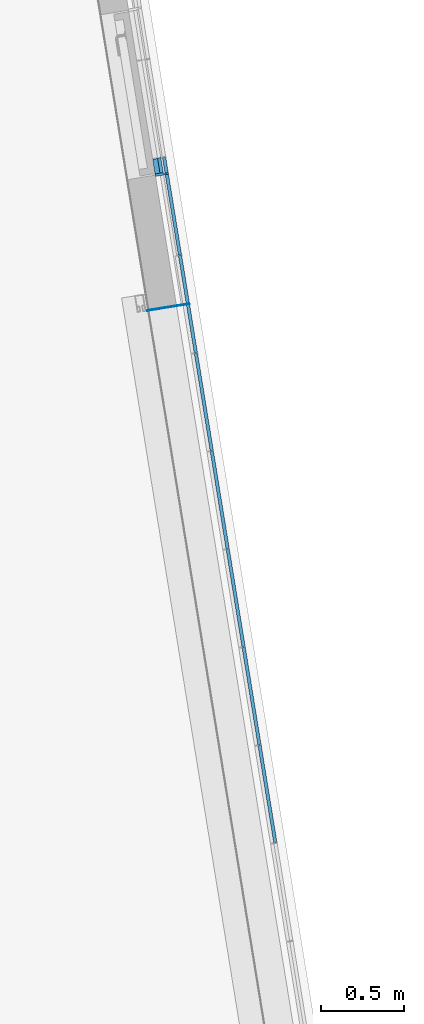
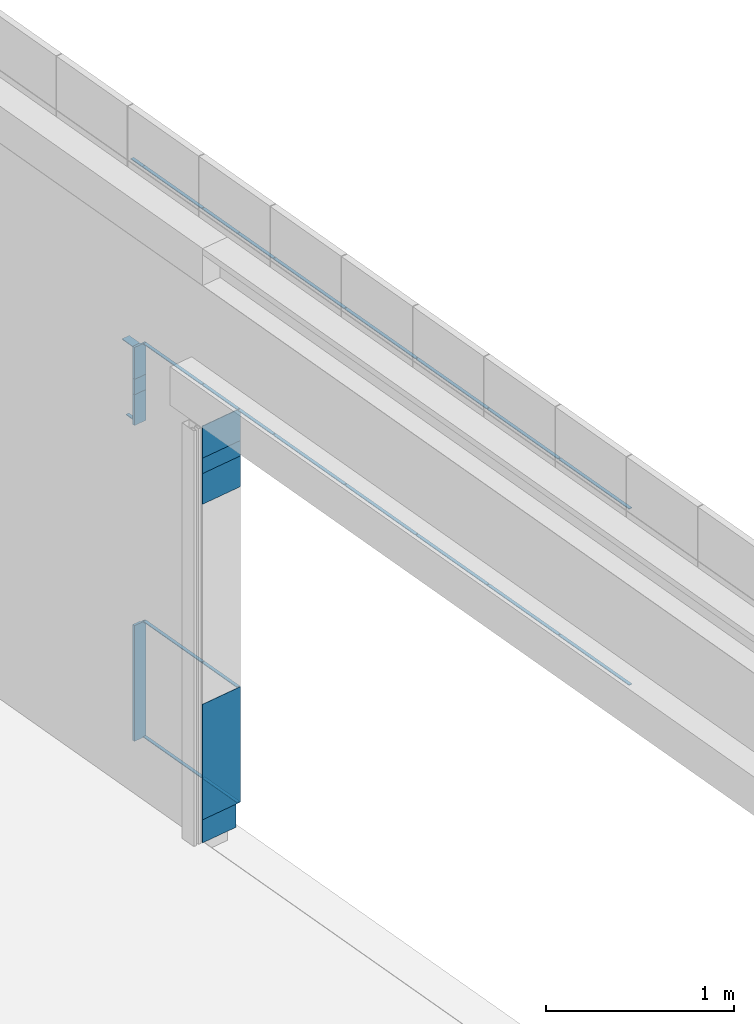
# One storey, part 8 of 38: 32 members, 1 element without a shape of its own.
"""IFC2X3 building model written with IfcOpenShell, lengths in millimetres."""

from ifc_helpers import new_model, entity, si_unit, converted_unit, derived_unit, direction, frame, frame_2d, origin, origin_with_axes, origin_2d_with_axis, place, context, subcontext, project, spatial, polyline, rectangle, outline, extrude, source, transform, mapped, material, type_object, element, aggregate, save


model = new_model("IFC2X3")

# Units and contexts
model_context = context("Model", 3, precision=0.01, world=origin(), true_north=direction((6.12323399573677e-17, 1.0)))
plan_context = context("Plan", 3, precision=1e-05, world=origin_with_axes())
body_context = subcontext(model_context, "Body", "Model", "MODEL_VIEW")
ifc_project = project(units=[converted_unit("PLANEANGLEUNIT", "DEGREE", entity("IfcPositiveLengthMeasure", 0.0174532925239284), si_unit("PLANEANGLEUNIT", "RADIAN"), dimensions=[0, 0, 0, 0, 0, 0, 0]), si_unit("AREAUNIT", "SQUARE_METRE"), si_unit("LENGTHUNIT", "METRE", prefix="MILLI"), si_unit("MASSUNIT", "GRAM", prefix="KILO"), si_unit("POWERUNIT", "WATT"), si_unit("PRESSUREUNIT", "PASCAL", prefix="KILO"), si_unit("FORCEUNIT", "NEWTON", prefix="KILO"), si_unit("ELECTRICVOLTAGEUNIT", "VOLT"), si_unit("ELECTRICCURRENTUNIT", "AMPERE"), si_unit("THERMODYNAMICTEMPERATUREUNIT", "DEGREE_CELSIUS"), si_unit("TIMEUNIT", "SECOND"), si_unit("VOLUMEUNIT", "CUBIC_METRE"), derived_unit("LINEARVELOCITYUNIT", [(si_unit("LENGTHUNIT", "METRE"), 1), (si_unit("TIMEUNIT", "SECOND"), -1)]), derived_unit("VOLUMETRICFLOWRATEUNIT", [(si_unit("VOLUMEUNIT", "CUBIC_METRE"), 1), (si_unit("TIMEUNIT", "SECOND"), -1)]), derived_unit("THERMALTRANSMITTANCEUNIT", [(si_unit("POWERUNIT", "WATT"), 1), (si_unit("THERMODYNAMICTEMPERATUREUNIT", "KELVIN"), -1), (si_unit("AREAUNIT", "SQUARE_METRE"), -1)]), derived_unit("SOUNDPRESSUREUNIT", [(si_unit("PRESSUREUNIT", "PASCAL"), 1)])], contexts=[model_context, plan_context])

# Site, building, storey
site_placement = place(None, frame((-0.00071070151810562, 0.00438415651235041, 0.0), z_axis=(0.0, 0.0, 1.0), x_axis=(-0.160236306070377, 0.987078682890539, 0.0)))
site = spatial("IfcSite", under=ifc_project, at=site_placement, Name="Default", CompositionType="ELEMENT")
building_placement = place(site_placement, origin_with_axes())
building = spatial("IfcBuilding", under=site, at=building_placement, Name="TOO", CompositionType="ELEMENT")
storey_placement = place(building_placement, frame((0.0, 0.0, 50999.9999999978), z_axis=(0.0, 0.0, 1.0), x_axis=(1.0, 0.0, 0.0)))
storey = spatial("IfcBuildingStorey", under=building, at=storey_placement, Name="Nivå D-H01", CompositionType="ELEMENT", Elevation=50999.9999999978)

# Curtain wall, members
curtain_wall_type = type_object("IfcCurtainWallType", Name="Curtain Wall:Curtain Wall Standard (Bruk kun denne)", PredefinedType="NOTDEFINED")
curtain_wall_placement = place(storey_placement, frame((0.0, 0.0, -50999.9999999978), z_axis=(0.0, 0.0, 1.0), x_axis=(1.0, 0.0, 0.0)))
curtain_wall = element("IfcCurtainWall", 1, at=curtain_wall_placement, inside=storey, type_object=curtain_wall_type, Name="Curtain Wall:Curtain Wall Standard (Bruk kun denne)", ObjectType="Curtain Wall:Curtain Wall Standard (Bruk kun denne)")
ifc_material_1 = material(Name="Rubber")
member_type_1 = type_object("IfcMemberType", Name="Rectangular Mullion:A246 - Fuge 5mm L09", PredefinedType="MULLION", material=ifc_material_1)
shared_shape_1 = source(origin(), body_context, "Body", "SweptSolid", [
    extrude(rectangle(XDim=5.0, YDim=20.0, at=origin_2d_with_axis()), frame((0.0, 10.0, -595.0), z_axis=(0.0, 0.0, 1.0), x_axis=(-1.0, 0.0, 0.0)), (0.0, 0.0, 1.0), 594.999999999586),
])
member_1_placement = place(curtain_wall_placement, frame((776580.119644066, -604232.480498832, 53704.9999999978), z_axis=(-1.0, 0.0, 0.0), x_axis=(0.0, 0.0, 1.0)))
member_1 = element("IfcMember", 2, at=member_1_placement, type_object=member_type_1, material=ifc_material_1, Name="Rectangular Mullion:A246 - Fuge 5mm L09", ObjectType="Rectangular Mullion:A246 - Fuge 5mm L09", context=body_context, shape_type="MappedRepresentation", body=[
    mapped(shared_shape_1, transform((0.0, 0.0, 0.0), scale=1.0)),
])
member_2_placement = place(curtain_wall_placement, frame((775980.119644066, -604232.480498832, 53704.9999999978), z_axis=(-1.0, 0.0, 0.0), x_axis=(0.0, 0.0, 1.0)))
member_2 = element("IfcMember", 3, at=member_2_placement, type_object=member_type_1, material=ifc_material_1, Name="Rectangular Mullion:A246 - Fuge 5mm L09", ObjectType="Rectangular Mullion:A246 - Fuge 5mm L09", context=body_context, shape_type="MappedRepresentation", body=[
    mapped(shared_shape_1, transform((0.0, 0.0, 0.0), scale=1.0)),
])
member_3_placement = place(curtain_wall_placement, frame((774780.119644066, -604232.480498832, 53704.9999999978), z_axis=(-1.0, 0.0, 0.0), x_axis=(0.0, 0.0, 1.0)))
member_3 = element("IfcMember", 4, at=member_3_placement, type_object=member_type_1, material=ifc_material_1, Name="Rectangular Mullion:A246 - Fuge 5mm L09", ObjectType="Rectangular Mullion:A246 - Fuge 5mm L09", context=body_context, shape_type="MappedRepresentation", body=[
    mapped(shared_shape_1, transform((0.0, 0.0, 0.0), scale=1.0)),
])
member_4_placement = place(curtain_wall_placement, frame((774180.119644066, -604232.480498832, 53704.9999999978), z_axis=(-1.0, 0.0, 0.0), x_axis=(0.0, 0.0, 1.0)))
member_4 = element("IfcMember", 5, at=member_4_placement, type_object=member_type_1, material=ifc_material_1, Name="Rectangular Mullion:A246 - Fuge 5mm L09", ObjectType="Rectangular Mullion:A246 - Fuge 5mm L09", context=body_context, shape_type="MappedRepresentation", body=[
    mapped(shared_shape_1, transform((0.0, 0.0, 0.0), scale=1.0)),
])
member_5_placement = place(curtain_wall_placement, frame((775380.119644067, -604232.480498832, 53704.9999999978), z_axis=(-1.0, 0.0, 0.0), x_axis=(0.0, 0.0, 1.0)))
member_5 = element("IfcMember", 6, at=member_5_placement, type_object=member_type_1, material=ifc_material_1, Name="Rectangular Mullion:A246 - Fuge 5mm L09", ObjectType="Rectangular Mullion:A246 - Fuge 5mm L09", context=body_context, shape_type="MappedRepresentation", body=[
    mapped(shared_shape_1, transform((0.0, 0.0, 0.0), scale=1.0)),
])
member_6_placement = place(curtain_wall_placement, frame((776580.119644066, -604232.480498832, 54850.0), z_axis=(-1.0, 0.0, 0.0), x_axis=(0.0, 0.0, 1.0)))
member_6 = element("IfcMember", 7, at=member_6_placement, type_object=member_type_1, material=ifc_material_1, Name="Rectangular Mullion:A246 - Fuge 5mm L09", ObjectType="Rectangular Mullion:A246 - Fuge 5mm L09", context=body_context, shape_type="MappedRepresentation", body=[
    mapped(shared_shape_1, transform((0.0, 0.0, 0.0), scale=1.0)),
])
member_7_placement = place(curtain_wall_placement, frame((775980.119644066, -604232.480498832, 54850.0), z_axis=(-1.0, 0.0, 0.0), x_axis=(0.0, 0.0, 1.0)))
member_7 = element("IfcMember", 8, at=member_7_placement, type_object=member_type_1, material=ifc_material_1, Name="Rectangular Mullion:A246 - Fuge 5mm L09", ObjectType="Rectangular Mullion:A246 - Fuge 5mm L09", context=body_context, shape_type="MappedRepresentation", body=[
    mapped(shared_shape_1, transform((0.0, 0.0, 0.0), scale=1.0)),
])
member_8_placement = place(curtain_wall_placement, frame((774780.119644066, -604232.480498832, 54850.0), z_axis=(-1.0, 0.0, 0.0), x_axis=(0.0, 0.0, 1.0)))
member_8 = element("IfcMember", 9, at=member_8_placement, type_object=member_type_1, material=ifc_material_1, Name="Rectangular Mullion:A246 - Fuge 5mm L09", ObjectType="Rectangular Mullion:A246 - Fuge 5mm L09", context=body_context, shape_type="MappedRepresentation", body=[
    mapped(shared_shape_1, transform((0.0, 0.0, 0.0), scale=1.0)),
])
member_9_placement = place(curtain_wall_placement, frame((774180.119644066, -604232.480498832, 54850.0), z_axis=(-1.0, 0.0, 0.0), x_axis=(0.0, 0.0, 1.0)))
member_9 = element("IfcMember", 10, at=member_9_placement, type_object=member_type_1, material=ifc_material_1, Name="Rectangular Mullion:A246 - Fuge 5mm L09", ObjectType="Rectangular Mullion:A246 - Fuge 5mm L09", context=body_context, shape_type="MappedRepresentation", body=[
    mapped(shared_shape_1, transform((0.0, 0.0, 0.0), scale=1.0)),
])
member_10_placement = place(curtain_wall_placement, frame((775380.119644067, -604232.480498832, 54850.0), z_axis=(-1.0, 0.0, 0.0), x_axis=(0.0, 0.0, 1.0)))
member_10 = element("IfcMember", 11, at=member_10_placement, type_object=member_type_1, material=ifc_material_1, Name="Rectangular Mullion:A246 - Fuge 5mm L09", ObjectType="Rectangular Mullion:A246 - Fuge 5mm L09", context=body_context, shape_type="MappedRepresentation", body=[
    mapped(shared_shape_1, transform((0.0, 0.0, 0.0), scale=1.0)),
])
ifc_material_2 = material(Name="A200 - Metall - Stål")
member_type_2 = type_object("IfcMemberType", Name="Rectangular Mullion:A248-M03 kantbeskyt. åpning 260", PredefinedType="MULLION", material=ifc_material_2)
shared_shape_2 = source(origin(), body_context, "Body", "SweptSolid", [
    extrude(rectangle(XDim=5.0, YDim=260.0, at=origin_2d_with_axis()), frame((0.0, 130.0, -100.0), z_axis=(0.0, 0.0, 1.0), x_axis=(-1.0, 0.0, 0.0)), (0.0, 0.0, 1.0), 100.000000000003),
])
member_11_placement = place(curtain_wall_placement, frame((777477.619644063, -604232.480498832, 53399.9999999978), z_axis=(0.0, 0.0, -1.0), x_axis=(-1.0, 0.0, 0.0)))
member_11 = element("IfcMember", 12, at=member_11_placement, type_object=member_type_2, material=ifc_material_2, Name="Rectangular Mullion:A248-M03 kantbeskyt. åpning 260", ObjectType="Rectangular Mullion:A248-M03 kantbeskyt. åpning 260", context=body_context, shape_type="MappedRepresentation", body=[
    mapped(shared_shape_2, transform((0.0, 0.0, 0.0), scale=1.0)),
])
member_type_3 = type_object("IfcMemberType", Name="Rectangular Mullion:A248-M03 kantbeskyt. åpning 260", PredefinedType="MULLION", material=ifc_material_2)
shared_shape_3 = source(origin(), body_context, "Body", "SweptSolid", [
    extrude(rectangle(XDim=5.0, YDim=260.0, at=origin_2d_with_axis()), frame((0.0, 130.0, -200.0), z_axis=(0.0, 0.0, 1.0), x_axis=(-1.0, 0.0, 0.0)), (0.0, 0.0, 1.0), 200.000000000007),
])
member_12_placement = place(curtain_wall_placement, frame((777477.619644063, -604232.480498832, 53199.9999999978), z_axis=(0.0, 0.0, -1.0), x_axis=(-1.0, 0.0, 0.0)))
member_12 = element("IfcMember", 13, at=member_12_placement, type_object=member_type_3, material=ifc_material_2, Name="Rectangular Mullion:A248-M03 kantbeskyt. åpning 260", ObjectType="Rectangular Mullion:A248-M03 kantbeskyt. åpning 260", context=body_context, shape_type="MappedRepresentation", body=[
    mapped(shared_shape_3, transform((0.0, 0.0, 0.0), scale=1.0)),
])
member_type_4 = type_object("IfcMemberType", Name="Rectangular Mullion:A248-M03 kantbeskyt. åpning 260", PredefinedType="MULLION", material=ifc_material_2)
shared_shape_4 = source(origin(), body_context, "Body", "SweptSolid", [
    extrude(rectangle(XDim=5.0, YDim=260.0, at=origin_2d_with_axis()), frame((0.0, 130.0, -750.0), z_axis=(0.0, 0.0, 1.0), x_axis=(-1.0, 0.0, 0.0)), (0.0, 0.0, 1.0), 750.000000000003),
])
member_13_placement = place(curtain_wall_placement, frame((777477.619644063, -604232.480498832, 51149.9999999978), z_axis=(0.0, 0.0, -1.0), x_axis=(-1.0, 0.0, 0.0)))
member_13 = element("IfcMember", 14, at=member_13_placement, type_object=member_type_4, material=ifc_material_2, Name="Rectangular Mullion:A248-M03 kantbeskyt. åpning 260", ObjectType="Rectangular Mullion:A248-M03 kantbeskyt. åpning 260", context=body_context, shape_type="MappedRepresentation", body=[
    mapped(shared_shape_4, transform((0.0, 0.0, 0.0), scale=1.0)),
])
member_type_5 = type_object("IfcMemberType", Name="Rectangular Mullion:A248-M03 kantbeskyt. åpning 230", PredefinedType="MULLION", material=ifc_material_2)
shared_shape_5 = source(origin(), body_context, "Body", "SweptSolid", [
    extrude(rectangle(XDim=5.0, YDim=230.0, at=frame_2d((0.0, -1.4210854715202e-14), x_axis=(1.0, 0.0))), frame((0.0, 145.0, -150.0), z_axis=(0.0, 0.0, 1.0), x_axis=(-1.0, 0.0, 0.0)), (0.0, 0.0, 1.0), 150.000000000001),
])
member_14_placement = place(curtain_wall_placement, frame((777477.619644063, -604232.480498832, 50999.9999999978), z_axis=(0.0, 0.0, -1.0), x_axis=(-1.0, 0.0, 0.0)))
member_14 = element("IfcMember", 15, at=member_14_placement, type_object=member_type_5, material=ifc_material_2, Name="Rectangular Mullion:A248-M03 kantbeskyt. åpning 230", ObjectType="Rectangular Mullion:A248-M03 kantbeskyt. åpning 230", context=body_context, shape_type="MappedRepresentation", body=[
    mapped(shared_shape_5, transform((0.0, 0.0, 0.0), scale=1.0)),
])
member_type_6 = type_object("IfcMemberType", Name="Rectangular Mullion:A248-M03 kantbeskyt. åpning 260", PredefinedType="MULLION", material=ifc_material_2)
shared_shape_6 = source(origin(), body_context, "Body", "SweptSolid", [
    extrude(rectangle(XDim=5.0, YDim=260.0, at=origin_2d_with_axis()), frame((0.0, 130.0, -207.499999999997), z_axis=(0.0, 0.0, 1.0), x_axis=(-1.0, 0.0, 0.0)), (0.0, 0.0, 1.0), 207.499999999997),
])
member_15_placement = place(curtain_wall_placement, frame((777477.619644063, -604232.480498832, 53499.9999999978), z_axis=(0.0, 0.0, -1.0), x_axis=(-1.0, 0.0, 0.0)))
member_15 = element("IfcMember", 16, at=member_15_placement, type_object=member_type_6, material=ifc_material_2, Name="Rectangular Mullion:A248-M03 kantbeskyt. åpning 260", ObjectType="Rectangular Mullion:A248-M03 kantbeskyt. åpning 260", context=body_context, shape_type="MappedRepresentation", body=[
    mapped(shared_shape_6, transform((0.0, 0.0, 0.0), scale=1.0)),
])
member_type_7 = type_object("IfcMemberType", Name="Rectangular Mullion:A246 - Fuge 5mm L09", PredefinedType="MULLION", material=ifc_material_1)
shared_shape_7 = source(origin(), body_context, "Body", "SweptSolid", [
    extrude(rectangle(XDim=5.0, YDim=20.0, at=origin_2d_with_axis()), frame((0.0, 10.0, -295.0), z_axis=(0.0, 0.0, 1.0), x_axis=(-1.0, 0.0, 0.0)), (0.0, 0.0, 1.0), 295.000000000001),
])
member_16_placement = place(curtain_wall_placement, frame((777180.119644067, -604232.480498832, 53704.9999999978), z_axis=(-1.0, 0.0, 0.0), x_axis=(0.0, 0.0, 1.0)))
member_16 = element("IfcMember", 17, at=member_16_placement, type_object=member_type_7, material=ifc_material_1, Name="Rectangular Mullion:A246 - Fuge 5mm L09", ObjectType="Rectangular Mullion:A246 - Fuge 5mm L09", context=body_context, shape_type="MappedRepresentation", body=[
    mapped(shared_shape_7, transform((0.0, 0.0, 0.0), scale=1.0)),
])
member_17_placement = place(curtain_wall_placement, frame((777480.119644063, -604232.480498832, 51149.9999999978), z_axis=(-1.0, 0.0, 0.0), x_axis=(0.0, 0.0, 1.0)))
member_17 = element("IfcMember", 18, at=member_17_placement, type_object=member_type_7, material=ifc_material_1, Name="Rectangular Mullion:A246 - Fuge 5mm L09", ObjectType="Rectangular Mullion:A246 - Fuge 5mm L09", context=body_context, shape_type="MappedRepresentation", body=[
    mapped(shared_shape_7, transform((0.0, 0.0, 0.0), scale=1.0)),
])
member_18_placement = place(curtain_wall_placement, frame((777480.119644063, -604232.480498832, 53704.9999999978), z_axis=(-1.0, 0.0, 0.0), x_axis=(0.0, 0.0, 1.0)))
member_18 = element("IfcMember", 19, at=member_18_placement, type_object=member_type_7, material=ifc_material_1, Name="Rectangular Mullion:A246 - Fuge 5mm L09", ObjectType="Rectangular Mullion:A246 - Fuge 5mm L09", context=body_context, shape_type="MappedRepresentation", body=[
    mapped(shared_shape_7, transform((0.0, 0.0, 0.0), scale=1.0)),
])
member_19_placement = place(curtain_wall_placement, frame((777480.119644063, -604232.480498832, 51899.9999999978), z_axis=(-1.0, 0.0, 0.0), x_axis=(0.0, 0.0, 1.0)))
member_19 = element("IfcMember", 20, at=member_19_placement, type_object=member_type_7, material=ifc_material_1, Name="Rectangular Mullion:A246 - Fuge 5mm L09", ObjectType="Rectangular Mullion:A246 - Fuge 5mm L09", context=body_context, shape_type="MappedRepresentation", body=[
    mapped(shared_shape_7, transform((0.0, 0.0, 0.0), scale=1.0)),
])
member_type_8 = type_object("IfcMemberType", Name="Rectangular Mullion:A246 - Fuge 5mm L09", PredefinedType="MULLION", material=ifc_material_1)
shared_shape_8 = source(origin(), body_context, "Body", "SweptSolid", [
    extrude(rectangle(XDim=5.0, YDim=20.0, at=origin_2d_with_axis()), frame((0.0, 10.0, -297.500000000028), z_axis=(0.0, 0.0, 1.0), x_axis=(-1.0, 0.0, 0.0)), (0.0, 0.0, 1.0), 297.500000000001),
])
member_20_placement = place(curtain_wall_placement, frame((777180.119644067, -604232.480498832, 54850.0), z_axis=(-1.0, 0.0, 0.0), x_axis=(0.0, 0.0, 1.0)))
member_20 = element("IfcMember", 21, at=member_20_placement, type_object=member_type_8, material=ifc_material_1, Name="Rectangular Mullion:A246 - Fuge 5mm L09", ObjectType="Rectangular Mullion:A246 - Fuge 5mm L09", context=body_context, shape_type="MappedRepresentation", body=[
    mapped(shared_shape_8, transform((0.0, 0.0, 0.0), scale=1.0)),
])
member_type_9 = type_object("IfcMemberType", Name="Rectangular Mullion:A248-M11 vinkelprofil 80 venstre", PredefinedType="MULLION", material=ifc_material_2)
shared_shape_9 = source(origin(), body_context, "Body", "SweptSolid", [
    extrude(outline(polyline([(-8.33333333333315, -43.3333333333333), (6.66666666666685, -43.3333333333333), (6.66666666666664, 6.66666666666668), (1.66666666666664, 6.66666666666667), (1.66666666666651, 36.6666666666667), (-8.33333333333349, 36.6666666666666), (-8.33333333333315, -43.3333333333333)])), frame((-0.833333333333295, 36.6666666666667, -207.499999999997), z_axis=(0.0, 0.0, 1.0), x_axis=(-1.0, 0.0, 0.0)), (0.0, 0.0, 1.0), 207.499999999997),
])
member_21_placement = place(curtain_wall_placement, frame((778277.619644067, -604232.480498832, 53499.9999999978), z_axis=(0.0, 0.0, -1.0), x_axis=(-1.0, 0.0, 0.0)))
member_21 = element("IfcMember", 22, at=member_21_placement, type_object=member_type_9, material=ifc_material_2, Name="Rectangular Mullion:A248-M11 vinkelprofil 80 venstre", ObjectType="Rectangular Mullion:A248-M11 vinkelprofil 80 venstre", context=body_context, shape_type="MappedRepresentation", body=[
    mapped(shared_shape_9, transform((0.0, 0.0, 0.0), scale=1.0)),
])
member_type_10 = type_object("IfcMemberType", Name="Rectangular Mullion:A248-M11 vinkelprofil 80 venstre", PredefinedType="MULLION", material=ifc_material_2)
shared_shape_10 = source(origin(), body_context, "Body", "SweptSolid", [
    extrude(outline(polyline([(-8.33333333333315, -43.3333333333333), (6.66666666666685, -43.3333333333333), (6.66666666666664, 6.66666666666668), (1.66666666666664, 6.66666666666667), (1.66666666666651, 36.6666666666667), (-8.33333333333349, 36.6666666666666), (-8.33333333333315, -43.3333333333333)])), frame((-0.833333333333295, 36.6666666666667, -100.0), z_axis=(0.0, 0.0, 1.0), x_axis=(-1.0, 0.0, 0.0)), (0.0, 0.0, 1.0), 100.000000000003),
])
member_22_placement = place(curtain_wall_placement, frame((778277.619644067, -604232.480498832, 53399.9999999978), z_axis=(0.0, 0.0, -1.0), x_axis=(-1.0, 0.0, 0.0)))
member_22 = element("IfcMember", 23, at=member_22_placement, type_object=member_type_10, material=ifc_material_2, Name="Rectangular Mullion:A248-M11 vinkelprofil 80 venstre", ObjectType="Rectangular Mullion:A248-M11 vinkelprofil 80 venstre", context=body_context, shape_type="MappedRepresentation", body=[
    mapped(shared_shape_10, transform((0.0, 0.0, 0.0), scale=1.0)),
])
member_type_11 = type_object("IfcMemberType", Name="Rectangular Mullion:A248-M11 vinkelprofil 80 venstre", PredefinedType="MULLION", material=ifc_material_2)
shared_shape_11 = source(origin(), body_context, "Body", "SweptSolid", [
    extrude(outline(polyline([(-8.33333333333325, -43.3333333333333), (6.66666666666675, -43.3333333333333), (6.66666666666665, 6.66666666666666), (1.66666666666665, 6.66666666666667), (1.66666666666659, 36.6666666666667), (-8.3333333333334, 36.6666666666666), (-8.33333333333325, -43.3333333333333)])), frame((-0.833333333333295, 36.6666666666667, -200.0), z_axis=(0.0, 0.0, 1.0), x_axis=(-1.0, 0.0, 0.0)), (0.0, 0.0, 1.0), 200.000000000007),
])
member_23_placement = place(curtain_wall_placement, frame((778277.619644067, -604232.480498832, 53199.9999999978), z_axis=(0.0, 0.0, -1.0), x_axis=(-1.0, 0.0, 0.0)))
member_23 = element("IfcMember", 24, at=member_23_placement, type_object=member_type_11, material=ifc_material_2, Name="Rectangular Mullion:A248-M11 vinkelprofil 80 venstre", ObjectType="Rectangular Mullion:A248-M11 vinkelprofil 80 venstre", context=body_context, shape_type="MappedRepresentation", body=[
    mapped(shared_shape_11, transform((0.0, 0.0, 0.0), scale=1.0)),
])
member_type_12 = type_object("IfcMemberType", Name="Rectangular Mullion:A248-M11 vinkelprofil 50", PredefinedType="MULLION", material=ifc_material_2)
shared_shape_12 = source(origin(), body_context, "Body", "SweptSolid", [
    extrude(rectangle(XDim=5.0, YDim=50.0, at=frame_2d((0.0, 7.105427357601e-15), x_axis=(1.0, 0.0))), frame((0.0, 55.0, -90.0), z_axis=(0.0, 0.0, 1.0), x_axis=(-1.0, 0.0, 0.0)), (0.0, 0.0, 1.0), 90.0000000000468),
])
member_24_placement = place(curtain_wall_placement, frame((778285.119644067, -604232.480498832, 53704.9999999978), z_axis=(-1.0, 0.0, 0.0), x_axis=(0.0, 0.0, 1.0)))
member_24 = element("IfcMember", 25, at=member_24_placement, type_object=member_type_12, material=ifc_material_2, Name="Rectangular Mullion:A248-M11 vinkelprofil 50", ObjectType="Rectangular Mullion:A248-M11 vinkelprofil 50", context=body_context, shape_type="MappedRepresentation", body=[
    mapped(shared_shape_12, transform((0.0, 0.0, 0.0), scale=1.0)),
])
member_type_13 = type_object("IfcMemberType", Name="Rectangular Mullion:A246 - Fuge 5mm L09", PredefinedType="MULLION", material=ifc_material_1)
shared_shape_13 = source(origin(), body_context, "Body", "SweptSolid", [
    extrude(rectangle(XDim=5.0, YDim=20.0, at=origin_2d_with_axis()), frame((0.0, 10.0, -297.500000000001), z_axis=(0.0, 0.0, 1.0), x_axis=(-1.0, 0.0, 0.0)), (0.0, 0.0, 1.0), 297.500000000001),
])
member_25_placement = place(curtain_wall_placement, frame((777477.619644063, -604232.480498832, 54850.0), z_axis=(-1.0, 0.0, 0.0), x_axis=(0.0, 0.0, 1.0)))
member_25 = element("IfcMember", 26, at=member_25_placement, type_object=member_type_13, material=ifc_material_1, Name="Rectangular Mullion:A246 - Fuge 5mm L09", ObjectType="Rectangular Mullion:A246 - Fuge 5mm L09", context=body_context, shape_type="MappedRepresentation", body=[
    mapped(shared_shape_13, transform((0.0, 0.0, 0.0), scale=1.0)),
])
member_type_14 = type_object("IfcMemberType", Name="Rectangular Mullion:A246 - Fuge 5mm L09", PredefinedType="MULLION", material=ifc_material_1)
shared_shape_14 = source(origin(), body_context, "Body", "SweptSolid", [
    extrude(rectangle(XDim=5.0, YDim=20.0, at=origin_2d_with_axis()), frame((0.0, 10.0, -490.0), z_axis=(0.0, 0.0, 1.0), x_axis=(-1.0, 0.0, 0.0)), (0.0, 0.0, 1.0), 489.999999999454),
])
member_26_placement = place(curtain_wall_placement, frame((777780.119644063, -604232.480498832, 51149.9999999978), z_axis=(-1.0, 0.0, 0.0), x_axis=(0.0, 0.0, 1.0)))
member_26 = element("IfcMember", 27, at=member_26_placement, type_object=member_type_14, material=ifc_material_1, Name="Rectangular Mullion:A246 - Fuge 5mm L09", ObjectType="Rectangular Mullion:A246 - Fuge 5mm L09", context=body_context, shape_type="MappedRepresentation", body=[
    mapped(shared_shape_14, transform((0.0, 0.0, 0.0), scale=1.0)),
])
member_27_placement = place(curtain_wall_placement, frame((777780.119644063, -604232.480498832, 53704.9999999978), z_axis=(-1.0, 0.0, 0.0), x_axis=(0.0, 0.0, 1.0)))
member_27 = element("IfcMember", 28, at=member_27_placement, type_object=member_type_14, material=ifc_material_1, Name="Rectangular Mullion:A246 - Fuge 5mm L09", ObjectType="Rectangular Mullion:A246 - Fuge 5mm L09", context=body_context, shape_type="MappedRepresentation", body=[
    mapped(shared_shape_14, transform((0.0, 0.0, 0.0), scale=1.0)),
])
member_28_placement = place(curtain_wall_placement, frame((777780.119644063, -604232.480498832, 51899.9999999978), z_axis=(-1.0, 0.0, 0.0), x_axis=(0.0, 0.0, 1.0)))
member_28 = element("IfcMember", 29, at=member_28_placement, type_object=member_type_14, material=ifc_material_1, Name="Rectangular Mullion:A246 - Fuge 5mm L09", ObjectType="Rectangular Mullion:A246 - Fuge 5mm L09", context=body_context, shape_type="MappedRepresentation", body=[
    mapped(shared_shape_14, transform((0.0, 0.0, 0.0), scale=1.0)),
])
member_type_15 = type_object("IfcMemberType", Name="Rectangular Mullion:A246 - Fuge 5mm L01", PredefinedType="MULLION", material=ifc_material_1)
shared_shape_15 = source(origin(), body_context, "Body", "SweptSolid", [
    extrude(rectangle(XDim=5.0, YDim=20.0, at=origin_2d_with_axis()), frame((0.0, 40.0, -92.4999999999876), z_axis=(0.0, 0.0, 1.0), x_axis=(-1.0, 0.0, 0.0)), (0.0, 0.0, 1.0), 92.5000000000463),
])
member_29_placement = place(curtain_wall_placement, frame((778285.119644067, -604232.480498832, 53199.9999999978), z_axis=(-1.0, 0.0, 0.0), x_axis=(0.0, 0.0, 1.0)))
member_29 = element("IfcMember", 30, at=member_29_placement, type_object=member_type_15, material=ifc_material_1, Name="Rectangular Mullion:A246 - Fuge 5mm L01", ObjectType="Rectangular Mullion:A246 - Fuge 5mm L01", context=body_context, shape_type="MappedRepresentation", body=[
    mapped(shared_shape_15, transform((0.0, 0.0, 0.0), scale=1.0)),
])
member_type_16 = type_object("IfcMemberType", Name="Rectangular Mullion:A246 - Fuge 5mm L09", PredefinedType="MULLION", material=ifc_material_1)
shared_shape_16 = source(origin(), body_context, "Body", "SweptSolid", [
    extrude(rectangle(XDim=5.0, YDim=20.0, at=origin_2d_with_axis()), frame((0.0, 10.0, -497.50000000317), z_axis=(0.0, 0.0, 1.0), x_axis=(-1.0, 0.0, 0.0)), (0.0, 0.0, 1.0), 497.500000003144),
])
member_30_placement = place(curtain_wall_placement, frame((777780.119644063, -604232.480498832, 54850.0), z_axis=(-1.0, 0.0, 0.0), x_axis=(0.0, 0.0, 1.0)))
member_30 = element("IfcMember", 31, at=member_30_placement, type_object=member_type_16, material=ifc_material_1, Name="Rectangular Mullion:A246 - Fuge 5mm L09", ObjectType="Rectangular Mullion:A246 - Fuge 5mm L09", context=body_context, shape_type="MappedRepresentation", body=[
    mapped(shared_shape_16, transform((0.0, 0.0, 0.0), scale=1.0)),
])
member_type_17 = type_object("IfcMemberType", Name="Rectangular Mullion:A246 - Fuge 5mm L09", PredefinedType="MULLION", material=ifc_material_1)
shared_shape_17 = source(origin(), body_context, "Body", "SweptSolid", [
    extrude(rectangle(XDim=5.0, YDim=20.0, at=origin_2d_with_axis()), frame((0.0, 10.0, -97.5000000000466), z_axis=(0.0, 0.0, 1.0), x_axis=(-1.0, 0.0, 0.0)), (0.0, 0.0, 1.0), 97.5000000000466),
])
member_31_placement = place(curtain_wall_placement, frame((778277.619644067, -604232.480498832, 54850.0), z_axis=(-1.0, 0.0, 0.0), x_axis=(0.0, 0.0, 1.0)))
member_31 = element("IfcMember", 32, at=member_31_placement, type_object=member_type_17, material=ifc_material_1, Name="Rectangular Mullion:A246 - Fuge 5mm L09", ObjectType="Rectangular Mullion:A246 - Fuge 5mm L09", context=body_context, shape_type="MappedRepresentation", body=[
    mapped(shared_shape_17, transform((0.0, 0.0, 0.0), scale=1.0)),
])
member_type_18 = type_object("IfcMemberType", Name="Rectangular Mullion:A248-M11 vinkelprofil 80 venstre", PredefinedType="MULLION", material=ifc_material_2)
shared_shape_18 = source(origin(), body_context, "Body", "SweptSolid", [
    extrude(outline(polyline([(-8.33333333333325, -43.3333333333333), (6.66666666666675, -43.3333333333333), (6.66666666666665, 6.66666666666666), (1.66666666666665, 6.66666666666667), (1.66666666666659, 36.6666666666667), (-8.3333333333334, 36.6666666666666), (-8.33333333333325, -43.3333333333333)])), frame((-0.833333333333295, 36.6666666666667, -752.500000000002), z_axis=(0.0, 0.0, 1.0), x_axis=(-1.0, 0.0, 0.0)), (0.0, 0.0, 1.0), 752.500000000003),
])
member_32_placement = place(curtain_wall_placement, frame((778277.619644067, -604232.480498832, 51147.4999999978), z_axis=(0.0, 0.0, -1.0), x_axis=(-1.0, 0.0, 0.0)))
member_32 = element("IfcMember", 33, at=member_32_placement, type_object=member_type_18, material=ifc_material_2, Name="Rectangular Mullion:A248-M11 vinkelprofil 80 venstre", ObjectType="Rectangular Mullion:A248-M11 vinkelprofil 80 venstre", context=body_context, shape_type="MappedRepresentation", body=[
    mapped(shared_shape_18, transform((0.0, 0.0, 0.0), scale=1.0)),
])
aggregate(curtain_wall, [member_1, member_2, member_3, member_4, member_13, member_11, member_15, member_12, member_16, member_14, member_5, member_21, member_22, member_23, member_24, member_26, member_17, member_29, member_27, member_18, member_28, member_19, member_6, member_7, member_8, member_9, member_20, member_30, member_31, member_10, member_25, member_32])

save(model, "model.ifc")
